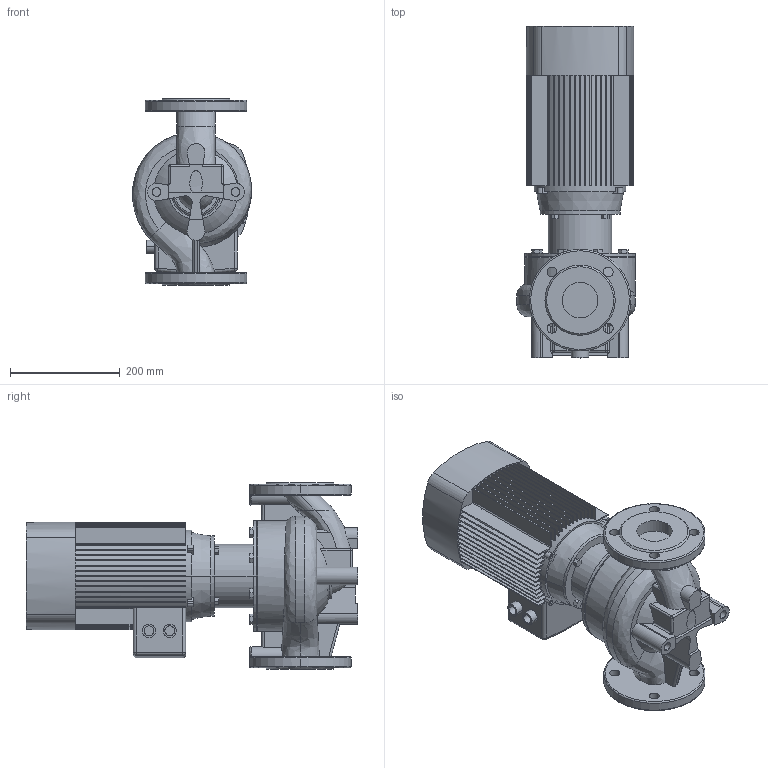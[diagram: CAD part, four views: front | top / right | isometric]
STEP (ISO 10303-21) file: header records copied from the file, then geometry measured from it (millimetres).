
FILE_DESCRIPTION (( 'STEP AP203' ), '1' );
FILE_NAME ('TD65-20G_2.STEP', '2022-05-02T18:50:23', ( '' ), ( '' ), 'SwSTEP 2.0', 'SolidWorks 2019', '' );
FILE_SCHEMA (( 'CONFIG_CONTROL_DESIGN' ));
Length unit declared in the file: millimetre
Products named in the file (4): TD65-20G_2; Pr_ch 65_TD65-20G_2; ED_B14_YE2-100L-2 (3); Fon_65_TD65-20G_2
Assembly tree (3 placements, depth 2):
  TD65-20G_2
    Pr_ch 65_TD65-20G_2
    Fon_65_TD65-20G_2
    ED_B14_YE2-100L-2 (3)
Bounding box: 216.93 x 605 x 340 mm (x, y, z)
Volume: 16130517.3 mm3; surface area: 1139661.9 mm2
Topology: 3 solids, 5 shells, 658 faces, 1783 edges, 1170 vertices
Faces by surface type: plane 431, cylinder 159, bspline 26, torus 25, cone 11, sphere 6
Entity records: 27082 total; most frequent: CARTESIAN_POINT 9928, ORIENTED_EDGE 3562, DIRECTION 3474, EDGE_CURVE 1781, AXIS2_PLACEMENT_3D 1225, VERTEX_POINT 1170, LINE 1024, VECTOR 1024
